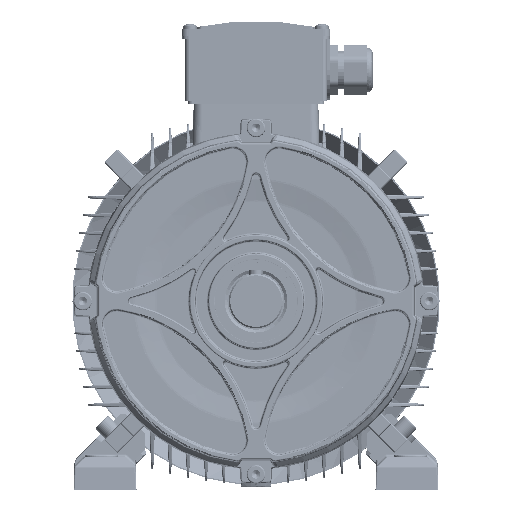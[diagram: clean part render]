
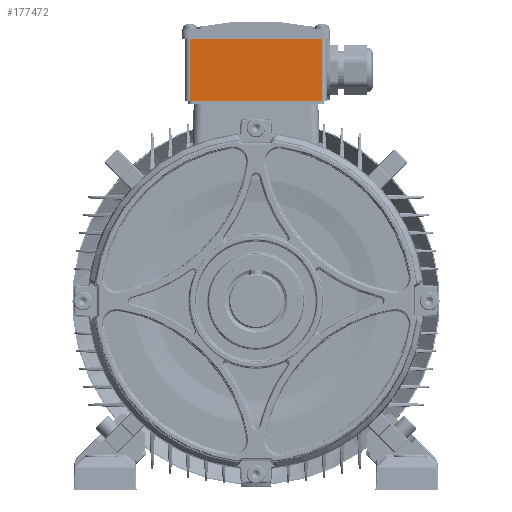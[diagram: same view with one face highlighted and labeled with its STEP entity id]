
A CAD part, left-side view. The second image highlights one B-rep face of the part: STEP entity #177472.
In plain terms, the highlighted planar face has unit normal (-1, 0, 0).
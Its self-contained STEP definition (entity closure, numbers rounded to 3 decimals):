
#38629 = CARTESIAN_POINT ( 'NONE',  ( -49.488, 43., -46.126 ) ) ;
#38650 = CARTESIAN_POINT ( 'NONE',  ( -49.488, 0., -46.126 ) ) ;
#38774 = CARTESIAN_POINT ( 'NONE',  ( -49.488, 0., 46.126 ) ) ;
#38812 = CARTESIAN_POINT ( 'NONE',  ( -49.488, 43., 46.126 ) ) ;
#51945 = LINE ( 'NONE', #77297, #51948 ) ;
#51948 = VECTOR ( 'NONE', #77295, 1000. ) ;
#77295 = DIRECTION ( 'NONE',  ( 0., 1., 0. ) ) ;
#77297 = CARTESIAN_POINT ( 'NONE',  ( -49.488, 47., -46.126 ) ) ;
#98794 = ORIENTED_EDGE ( 'NONE', *, *, #189302, .F. ) ;
#98798 = ORIENTED_EDGE ( 'NONE', *, *, #167586, .T. ) ;
#98801 = ORIENTED_EDGE ( 'NONE', *, *, #167582, .F. ) ;
#98804 = ORIENTED_EDGE ( 'NONE', *, *, #167592, .T. ) ;
#122725 = VERTEX_POINT ( 'NONE', #38629 ) ;
#122732 = VERTEX_POINT ( 'NONE', #38650 ) ;
#122769 = VERTEX_POINT ( 'NONE', #38774 ) ;
#122780 = VERTEX_POINT ( 'NONE', #38812 ) ;
#150177 = CARTESIAN_POINT ( 'NONE',  ( -49.488, 47., 46.126 ) ) ;
#150182 = DIRECTION ( 'NONE',  ( 0., -1., 0. ) ) ;
#150202 = CARTESIAN_POINT ( 'NONE',  ( -49.488, 43., -46.512 ) ) ;
#150217 = CARTESIAN_POINT ( 'NONE',  ( -49.488, 0., -46.512 ) ) ;
#150223 = DIRECTION ( 'NONE',  ( 0., 0., 1. ) ) ;
#150226 = DIRECTION ( 'NONE',  ( 0., 0., -1. ) ) ;
#151843 = LINE ( 'NONE', #150202, #151862 ) ;
#151852 = LINE ( 'NONE', #150177, #151856 ) ;
#151854 = LINE ( 'NONE', #150217, #151860 ) ;
#151856 = VECTOR ( 'NONE', #150182, 1000. ) ;
#151860 = VECTOR ( 'NONE', #150223, 1000. ) ;
#151862 = VECTOR ( 'NONE', #150226, 1000. ) ;
#167582 = EDGE_CURVE ( 'NONE', #122780, #122769, #151852, .T. ) ;
#167586 = EDGE_CURVE ( 'NONE', #122732, #122769, #151854, .T. ) ;
#167592 = EDGE_CURVE ( 'NONE', #122780, #122725, #151843, .T. ) ;
#177472 = ADVANCED_FACE ( 'NONE', ( #244714 ), #256002, .F. ) ;
#189302 = EDGE_CURVE ( 'NONE', #122732, #122725, #51945, .T. ) ;
#204680 = EDGE_LOOP ( 'NONE', ( #98794, #98798, #98801, #98804 ) ) ;
#229814 = AXIS2_PLACEMENT_3D ( 'NONE', #255994, #256007, #256011 ) ;
#244714 = FACE_OUTER_BOUND ( 'NONE', #204680, .T. ) ;
#255994 = CARTESIAN_POINT ( 'NONE',  ( -49.488, 47., 46.126 ) ) ;
#256002 = PLANE ( 'NONE',  #229814 ) ;
#256007 = DIRECTION ( 'NONE',  ( 1., 0., 0. ) ) ;
#256011 = DIRECTION ( 'NONE',  ( 0., 0., -1. ) ) ;
